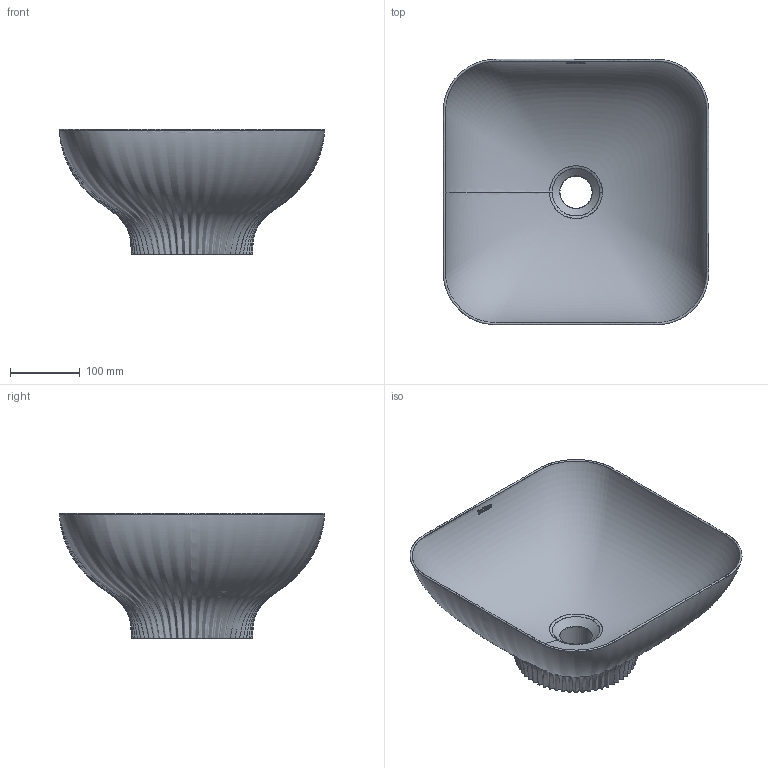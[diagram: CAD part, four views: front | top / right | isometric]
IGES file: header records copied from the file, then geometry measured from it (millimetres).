
Global section: file name: C:\Users\hp\Documents\6054_Cervino_Cuadrado.igs; native system: Rhinoceros ( Sep 10 2024 ); preprocessor: Trout Lake IGES 012 Sep 10 2024; date: 241015.125345; units: millimetre
Bounding box: 380 x 380 x 180.17 mm (x, y, z)
Surface area: 482874 mm2 (no closed solid volume)
Topology: 0 solids, 0 shells, 80 faces, 4174 edges, 4155 vertices
Faces by surface type: bspline 80
